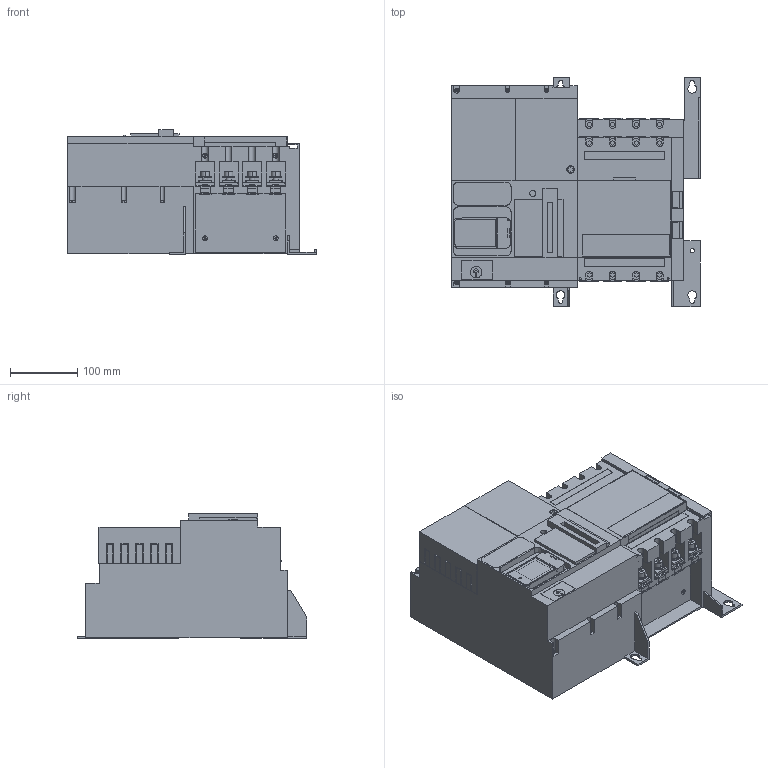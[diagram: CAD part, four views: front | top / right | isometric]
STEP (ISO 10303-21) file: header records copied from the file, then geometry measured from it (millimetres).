
FILE_DESCRIPTION((''),'2;1');
FILE_NAME('R3-4P-LCD-V03-3D_ASM','2022-11-08T11:34:45',('SESA654545'),('Schneider-Electric'),'CREO PARAMETRIC BY PTC INC, 2021284','CREO PARAMETRIC BY PTC INC, 2021284','');
FILE_SCHEMA(('AP242_MANAGED_MODEL_BASED_3D_ENGINEERING_MIM_LF { 1 0 10303 442 1 1 4 }'));
Length unit declared in the file: millimetre
Products named in the file (7): REMOTE-4P; FASTEN-4P; JYT2823701-4P; REMOTE-V03_ASM; LCD-MONITOR-DEVICE; R3-4P-LCD_ASM; R3-4P-LCD-V03-3D_ASM
Assembly tree (17 placements, depth 4):
  R3-4P-LCD-V03-3D_ASM
    R3-4P-LCD_ASM
      REMOTE-V03_ASM
        REMOTE-4P
        FASTEN-4P  x12
        JYT2823701-4P
      LCD-MONITOR-DEVICE
Bounding box: 370 x 341 x 185.8 mm (x, y, z)
Volume: 13716682.8 mm3; surface area: 790451.1 mm2
Topology: 26 solids, 26 shells, 2187 faces, 5832 edges, 3884 vertices
Faces by surface type: plane 1791, cylinder 379, extrusion 17
Entity records: 60920 total; most frequent: CARTESIAN_POINT 8627, ORIENTED_EDGE 7572, DIRECTION 7234, PRESENTATION_STYLE_ASSIGNMENT 4164, STYLED_ITEM 3802, CURVE_STYLE 3786, EDGE_CURVE 3786, VECTOR 3156
